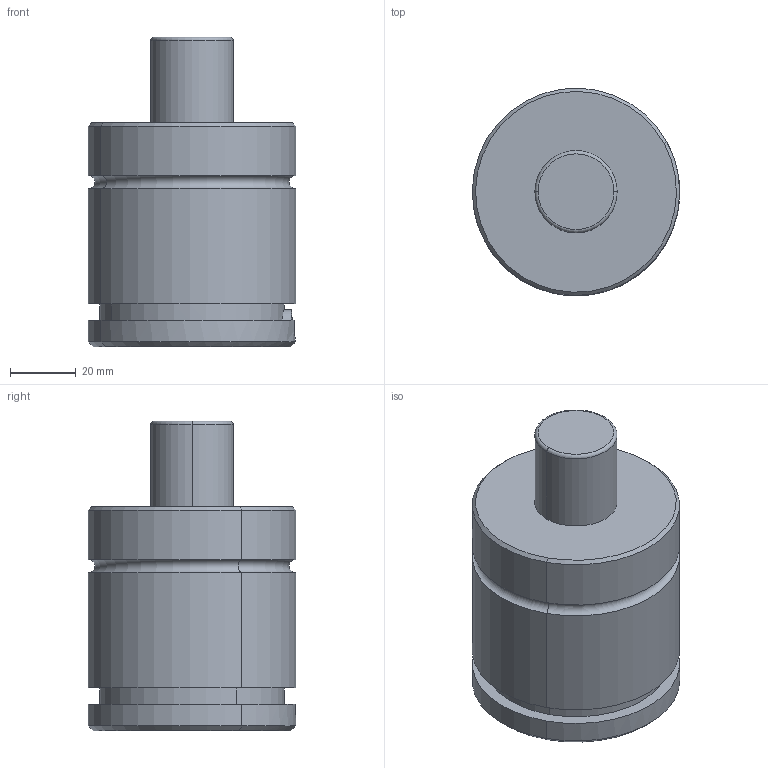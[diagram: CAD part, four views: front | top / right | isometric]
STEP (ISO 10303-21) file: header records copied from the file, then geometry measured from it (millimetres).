
FILE_DESCRIPTION(('FreeCAD Model'),'2;1');
FILE_NAME('Open CASCADE Shape Model','2024-11-12T16:10:42',('Author'),( ''),'Open CASCADE STEP processor 7.6','FreeCAD','Unknown');
FILE_SCHEMA(('AUTOMOTIVE_DESIGN { 1 0 10303 214 1 1 1 1 }'));
Length unit declared in the file: millimetre
Products named in the file (1): Cut
Bounding box: 62.98 x 62.98 x 94 mm (x, y, z)
Volume: 217617.6 mm3; surface area: 24341.9 mm2
Topology: 1 solids, 1 shells, 68 faces, 153 edges, 92 vertices
Faces by surface type: cylinder 27, plane 19, cone 16, torus 6
Full cylindrical faces by diameter (mm): 8 x4
Entity records: 2009 total; most frequent: CARTESIAN_POINT 465, DIRECTION 338, ORIENTED_EDGE 298, EDGE_CURVE 149, AXIS2_PLACEMENT_3D 140, VERTEX_POINT 92, FACE_BOUND 79, EDGE_LOOP 79
